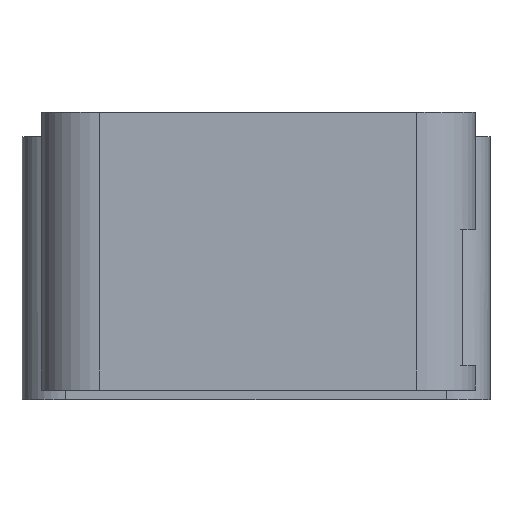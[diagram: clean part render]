
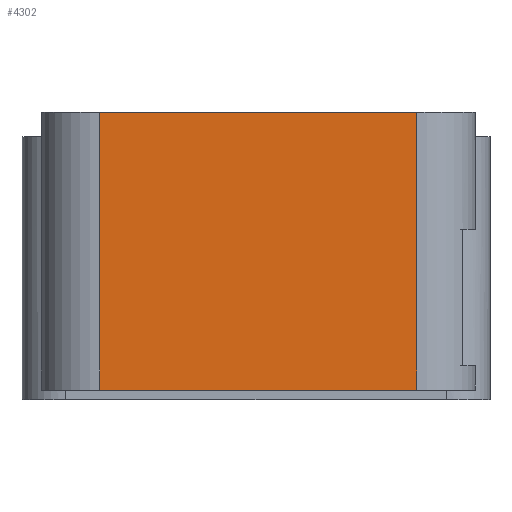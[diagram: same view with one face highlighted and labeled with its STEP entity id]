
A CAD part, left-side view. The second image highlights one B-rep face of the part: STEP entity #4302.
In plain terms, the highlighted planar face has unit normal (-1, 0, 0).
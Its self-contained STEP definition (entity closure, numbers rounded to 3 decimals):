
#1778 = PLANE('',#1779);
#1779 = AXIS2_PLACEMENT_3D('',#1780,#1781,#1782);
#1780 = CARTESIAN_POINT('',(-42.,-43.,-40.));
#1781 = DIRECTION('',(0.,0.,1.));
#1782 = DIRECTION('',(1.,0.,0.));
#1949 = PLANE('',#1950);
#1950 = AXIS2_PLACEMENT_3D('',#1951,#1952,#1953);
#1951 = CARTESIAN_POINT('',(-42.,-43.,17.));
#1952 = DIRECTION('',(0.,0.,1.));
#1953 = DIRECTION('',(1.,0.,0.));
#2782 = VERTEX_POINT('',#2783);
#2783 = CARTESIAN_POINT('',(-83.,-31.,-40.));
#2798 = CYLINDRICAL_SURFACE('',#2799,12.);
#2799 = AXIS2_PLACEMENT_3D('',#2800,#2801,#2802);
#2800 = CARTESIAN_POINT('',(-71.,-31.,-40.));
#2801 = DIRECTION('',(-0.,-0.,1.));
#2802 = DIRECTION('',(-1.,-0.,-0.));
#2810 = EDGE_CURVE('',#2782,#2811,#2813,.T.);
#2811 = VERTEX_POINT('',#2812);
#2812 = CARTESIAN_POINT('',(-83.,34.,-40.));
#2813 = SURFACE_CURVE('',#2814,(#2818,#2825),.PCURVE_S1.);
#2814 = LINE('',#2815,#2816);
#2815 = CARTESIAN_POINT('',(-83.,-43.,-40.));
#2816 = VECTOR('',#2817,1.);
#2817 = DIRECTION('',(-0.,1.,0.));
#2818 = PCURVE('',#1778,#2819);
#2819 = DEFINITIONAL_REPRESENTATION('',(#2820),#2824);
#2820 = LINE('',#2821,#2822);
#2821 = CARTESIAN_POINT('',(-41.,0.));
#2822 = VECTOR('',#2823,1.);
#2823 = DIRECTION('',(-0.,1.));
#2824 = ( GEOMETRIC_REPRESENTATION_CONTEXT(2) 
PARAMETRIC_REPRESENTATION_CONTEXT() REPRESENTATION_CONTEXT('2D SPACE',''
  ) );
#2825 = PCURVE('',#2826,#2831);
#2826 = PLANE('',#2827);
#2827 = AXIS2_PLACEMENT_3D('',#2828,#2829,#2830);
#2828 = CARTESIAN_POINT('',(-83.,-43.,-40.));
#2829 = DIRECTION('',(-1.,-0.,0.));
#2830 = DIRECTION('',(0.,0.,-1.));
#2831 = DEFINITIONAL_REPRESENTATION('',(#2832),#2836);
#2832 = LINE('',#2833,#2834);
#2833 = CARTESIAN_POINT('',(-0.,-0.));
#2834 = VECTOR('',#2835,1.);
#2835 = DIRECTION('',(-0.,-1.));
#2836 = ( GEOMETRIC_REPRESENTATION_CONTEXT(2) 
PARAMETRIC_REPRESENTATION_CONTEXT() REPRESENTATION_CONTEXT('2D SPACE',''
  ) );
#2859 = CYLINDRICAL_SURFACE('',#2860,12.);
#2860 = AXIS2_PLACEMENT_3D('',#2861,#2862,#2863);
#2861 = CARTESIAN_POINT('',(-71.,34.,-40.));
#2862 = DIRECTION('',(-0.,-0.,1.));
#2863 = DIRECTION('',(-1.,-0.,-0.));
#3680 = VERTEX_POINT('',#3681);
#3681 = CARTESIAN_POINT('',(-83.,-31.,17.));
#3703 = EDGE_CURVE('',#3680,#3704,#3706,.T.);
#3704 = VERTEX_POINT('',#3705);
#3705 = CARTESIAN_POINT('',(-83.,34.,17.));
#3706 = SURFACE_CURVE('',#3707,(#3711,#3718),.PCURVE_S1.);
#3707 = LINE('',#3708,#3709);
#3708 = CARTESIAN_POINT('',(-83.,-43.,17.));
#3709 = VECTOR('',#3710,1.);
#3710 = DIRECTION('',(-0.,1.,0.));
#3711 = PCURVE('',#1949,#3712);
#3712 = DEFINITIONAL_REPRESENTATION('',(#3713),#3717);
#3713 = LINE('',#3714,#3715);
#3714 = CARTESIAN_POINT('',(-41.,0.));
#3715 = VECTOR('',#3716,1.);
#3716 = DIRECTION('',(-0.,1.));
#3717 = ( GEOMETRIC_REPRESENTATION_CONTEXT(2) 
PARAMETRIC_REPRESENTATION_CONTEXT() REPRESENTATION_CONTEXT('2D SPACE',''
  ) );
#3718 = PCURVE('',#2826,#3719);
#3719 = DEFINITIONAL_REPRESENTATION('',(#3720),#3724);
#3720 = LINE('',#3721,#3722);
#3721 = CARTESIAN_POINT('',(-57.,-0.));
#3722 = VECTOR('',#3723,1.);
#3723 = DIRECTION('',(-0.,-1.));
#3724 = ( GEOMETRIC_REPRESENTATION_CONTEXT(2) 
PARAMETRIC_REPRESENTATION_CONTEXT() REPRESENTATION_CONTEXT('2D SPACE',''
  ) );
#4282 = EDGE_CURVE('',#2811,#3704,#4283,.T.);
#4283 = SURFACE_CURVE('',#4284,(#4288,#4295),.PCURVE_S1.);
#4284 = LINE('',#4285,#4286);
#4285 = CARTESIAN_POINT('',(-83.,34.,-40.));
#4286 = VECTOR('',#4287,1.);
#4287 = DIRECTION('',(-0.,-0.,1.));
#4288 = PCURVE('',#2859,#4289);
#4289 = DEFINITIONAL_REPRESENTATION('',(#4290),#4294);
#4290 = LINE('',#4291,#4292);
#4291 = CARTESIAN_POINT('',(-0.,0.));
#4292 = VECTOR('',#4293,1.);
#4293 = DIRECTION('',(-0.,1.));
#4294 = ( GEOMETRIC_REPRESENTATION_CONTEXT(2) 
PARAMETRIC_REPRESENTATION_CONTEXT() REPRESENTATION_CONTEXT('2D SPACE',''
  ) );
#4295 = PCURVE('',#2826,#4296);
#4296 = DEFINITIONAL_REPRESENTATION('',(#4297),#4301);
#4297 = LINE('',#4298,#4299);
#4298 = CARTESIAN_POINT('',(-0.,-77.));
#4299 = VECTOR('',#4300,1.);
#4300 = DIRECTION('',(-1.,-0.));
#4301 = ( GEOMETRIC_REPRESENTATION_CONTEXT(2) 
PARAMETRIC_REPRESENTATION_CONTEXT() REPRESENTATION_CONTEXT('2D SPACE',''
  ) );
#4302 = ADVANCED_FACE('',(#4303),#2826,.T.);
#4303 = FACE_BOUND('',#4304,.F.);
#4304 = EDGE_LOOP('',(#4305,#4306,#4327,#4328));
#4305 = ORIENTED_EDGE('',*,*,#3703,.F.);
#4306 = ORIENTED_EDGE('',*,*,#4307,.F.);
#4307 = EDGE_CURVE('',#2782,#3680,#4308,.T.);
#4308 = SURFACE_CURVE('',#4309,(#4313,#4320),.PCURVE_S1.);
#4309 = LINE('',#4310,#4311);
#4310 = CARTESIAN_POINT('',(-83.,-31.,-40.));
#4311 = VECTOR('',#4312,1.);
#4312 = DIRECTION('',(-0.,-0.,1.));
#4313 = PCURVE('',#2826,#4314);
#4314 = DEFINITIONAL_REPRESENTATION('',(#4315),#4319);
#4315 = LINE('',#4316,#4317);
#4316 = CARTESIAN_POINT('',(-0.,-12.));
#4317 = VECTOR('',#4318,1.);
#4318 = DIRECTION('',(-1.,-0.));
#4319 = ( GEOMETRIC_REPRESENTATION_CONTEXT(2) 
PARAMETRIC_REPRESENTATION_CONTEXT() REPRESENTATION_CONTEXT('2D SPACE',''
  ) );
#4320 = PCURVE('',#2798,#4321);
#4321 = DEFINITIONAL_REPRESENTATION('',(#4322),#4326);
#4322 = LINE('',#4323,#4324);
#4323 = CARTESIAN_POINT('',(0.,0.));
#4324 = VECTOR('',#4325,1.);
#4325 = DIRECTION('',(0.,1.));
#4326 = ( GEOMETRIC_REPRESENTATION_CONTEXT(2) 
PARAMETRIC_REPRESENTATION_CONTEXT() REPRESENTATION_CONTEXT('2D SPACE',''
  ) );
#4327 = ORIENTED_EDGE('',*,*,#2810,.T.);
#4328 = ORIENTED_EDGE('',*,*,#4282,.T.);
